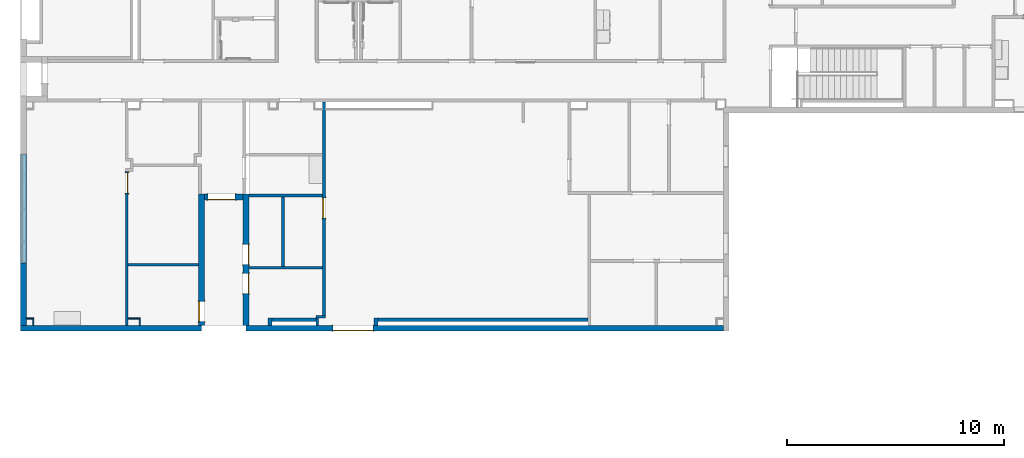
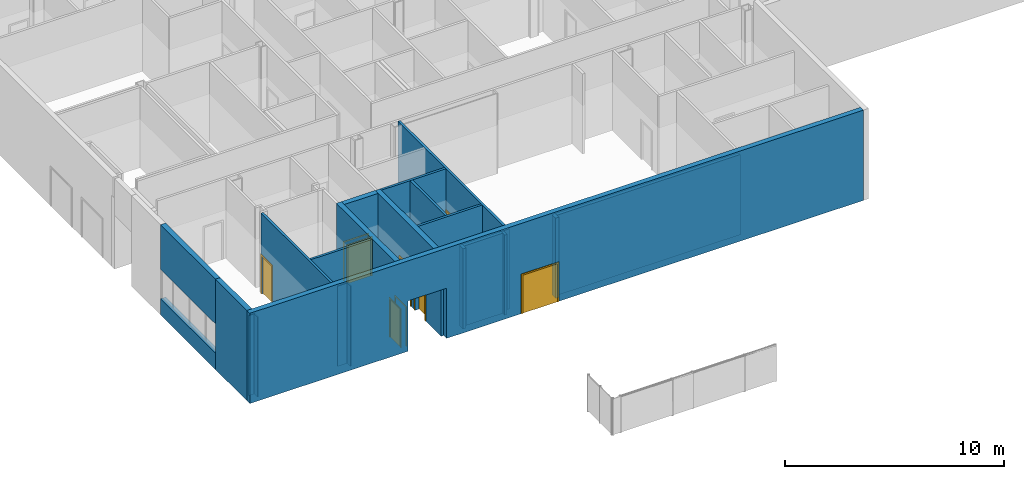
# One storey, part 18 of 82: 23 walls, 7 doors, 8 openings.
"""IFC2X3 building model written with IfcOpenShell, lengths in metres."""

from ifc_helpers import new_model, entity, si_unit, converted_unit, frame, frame_2d, origin, origin_2d_with_axis, place, context, project, spatial, polyline, rectangle, outline, extrude, source, transform, mapped, material, layer, layer_set, layer_usage, type_object, type_shapes, element, fill, save


model = new_model("IFC2X3")

# Units and contexts
model_context = context("Model", 3, precision=1e-09, world=origin())
plan_context = context("Plan", 3, precision=1e-09, world=origin())
ifc_project = project(units=[si_unit("LENGTHUNIT", "METRE"), si_unit("AREAUNIT", "SQUARE_METRE"), si_unit("VOLUMEUNIT", "CUBIC_METRE"), converted_unit("PLANEANGLEUNIT", "DEGREE", entity("IfcRatioMeasure", 0.01745329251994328), si_unit("PLANEANGLEUNIT", "RADIAN"), dimensions=[0, 0, 0, 0, 0, 0, 0]), si_unit("TIMEUNIT", "SECOND")], contexts=[model_context, plan_context])

# Site, building, storey
site_placement = place(None, origin())
site = spatial("IfcSite", under=ifc_project, at=site_placement, Name="Default", CompositionType="ELEMENT")
building_placement = place(site_placement, origin())
building = spatial("IfcBuilding", under=site, at=building_placement, CompositionType="ELEMENT")
storey_placement = place(building_placement, origin())
storey = spatial("IfcBuildingStorey", under=building, at=storey_placement, Name="First Floor", CompositionType="ELEMENT", Elevation=-3.531500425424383e-13)

# Wall, openings, door
ifc_material_1 = material(Name="Insulation - Insulated Panel")
ifc_layer_1 = layer(ifc_material_1, 0.042)
ifc_material_2 = material(Name="Metal - Firring")
ifc_layer_2 = layer(ifc_material_2, 0.038)
ifc_material_3 = material(Name="Wood - Sheathing - plywood")
ifc_layer_3 = layer(ifc_material_3, 0.019)
ifc_material_4 = material(Name="Metal - Stud Layer")
ifc_layer_4 = layer(ifc_material_4, 0.152)
ifc_material_5 = material(Name="Plasterboard")
ifc_layer_5 = layer(ifc_material_5, 0.016)
ifc_layer_set_1 = layer_set([ifc_layer_1, ifc_layer_2, ifc_layer_3, ifc_layer_4, ifc_layer_5], Name="Basic Wall:Exterior - Insul Panel on Mtl. Stud")
ifc_layer_usage_1 = layer_usage(ifc_layer_set_1, "AXIS2", "NEGATIVE", 0.1335)
wall_1_placement = place(storey_placement, frame((-19.9470000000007, -0.246500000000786, 0.0), z_axis=(0.0, 0.0, 1.0), x_axis=(-1.0, 0.0, 0.0)))
wall_1 = element("IfcWallStandardCase", 1, at=wall_1_placement, inside=storey, material=ifc_layer_usage_1, Name="Basic Wall:Exterior - Insul Panel on Mtl. Stud", ObjectType="Basic Wall:Exterior - Insul Panel on Mtl. Stud", context=model_context, shape_type="SweptSolid", body=[
    extrude(rectangle(XDim=32.333, YDim=0.267, at=frame_2d((16.1665, 0.0), x_axis=(-1.0, 0.0))), origin(), (0.0, 0.0, 1.0), 5.02700000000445),
])
opening_1_placement = place(wall_1_placement, frame((22.98149999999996, 0.1335, 1.400000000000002)))
element("IfcOpeningElement", 2, at=opening_1_placement, cuts=wall_1, Name="Basic Wall:Exterior - Insul Panel on Mtl. Stud:2", ObjectType="Opening", context=model_context, shape_type="SweptSolid", body=[
    extrude(rectangle(XDim=2.8, YDim=2.043999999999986, at=frame_2d((0.0, 0.0), x_axis=(0.0, 1.0))), frame((0.0, 0.0, 0.0), z_axis=(0.0, -1.0, 0.0), x_axis=(1.0, 0.0, 0.0)), (0.0, 0.0, 1.0), 0.267),
])
opening_2_placement = place(wall_1_placement, frame((16.12339999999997, -0.1335000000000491, 0.0)))
opening_2 = element("IfcOpeningElement", 3, at=opening_2_placement, cuts=wall_1, Name="M_Double-Flush:1830 x 2134mm Exterior:1830 x 2134mm Exterior:1", ObjectType="Opening", context=model_context, shape_type="SweptSolid", body=[
    extrude(rectangle(XDim=2.133999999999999, YDim=1.829999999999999, at=frame_2d((1.067, 0.9149999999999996), x_axis=(1.0, 0.0))), frame((0.0, 0.0, 0.0), z_axis=(0.0, 1.0, 0.0), x_axis=(0.0, 0.0, 1.0)), (0.0, 0.0, 1.0), 0.267),
])
door_style_1 = type_object("IfcDoorStyle", Name="1830 x 2134mm Exterior", ConstructionType="NOTDEFINED", OperationType="DOUBLE_DOOR_SINGLE_SWING", ParameterTakesPrecedence=False, Sizeable=False)
shared_shape_1 = source(origin(), model_context, "Body", "SweptSolid", [
    extrude(rectangle(XDim=0.051, YDim=0.9150000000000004, at=origin_2d_with_axis()), frame((1.3725, 0.2414999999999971, 0.0), z_axis=(0.0, 0.0, 1.0), x_axis=(0.0, -1.0, 0.0)), (0.0, 0.0, 1.0), 2.133999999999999),
    extrude(rectangle(XDim=0.05099999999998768, YDim=0.9149999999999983, at=origin_2d_with_axis()), frame((0.457500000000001, 0.2415000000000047, 0.0), z_axis=(0.0, 0.0, 1.0), x_axis=(0.0, -1.0, 0.0)), (0.0, 0.0, 1.0), 2.134),
    extrude(outline(polyline([(-1.048, 0.9149999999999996), (1.086, 0.9149999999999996), (1.086, 0.9909999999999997), (-1.124, 0.9909999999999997), (-1.124, -0.9909999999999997), (1.086, -0.9909999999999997), (1.086, -0.9149999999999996), (-1.048, -0.9149999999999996), (-1.048, 0.9149999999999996)])), frame((0.9149999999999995, -0.02499999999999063, 1.086), z_axis=(0.0, 1.0, 0.0), x_axis=(0.0, 0.0, -1.0)), (0.0, 0.0, 1.0), 0.02499999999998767),
    extrude(outline(polyline([(-1.048, 0.9149999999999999), (1.086, 0.9149999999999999), (1.086, 0.991), (-1.124, 0.991), (-1.124, -0.991), (1.086, -0.991), (1.086, -0.9149999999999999), (-1.048, -0.9149999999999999), (-1.048, 0.9149999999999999)])), frame((0.9150000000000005, 0.266999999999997, 1.086), z_axis=(0.0, 1.0, 0.0), x_axis=(0.0, 0.0, -1.0)), (0.0, 0.0, 1.0), 0.02500000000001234),
])
type_shapes(door_style_1, [shared_shape_1])
door_1_placement = place(opening_2_placement, origin())
door_1 = element("IfcDoor", 4, at=door_1_placement, inside=storey, type_object=door_style_1, Name="M_Double-Flush:1830 x 2134mm Exterior:1830 x 2134mm Exterior", ObjectType="1830 x 2134mm Exterior", OverallHeight=2.133999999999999, OverallWidth=1.83, context=model_context, shape_type="MappedRepresentation", body=[
    mapped(shared_shape_1, transform((0.0, 0.0, 0.0), scale=1.0)),
])
fill(opening_2, door_1)

# Wall, opening, door
ifc_layer_6 = layer(ifc_material_5, 0.016)
ifc_layer_7 = layer(ifc_material_4, 0.092)
ifc_layer_8 = layer(ifc_material_5, 0.016)
ifc_layer_set_2 = layer_set([ifc_layer_6, ifc_layer_7, ifc_layer_8], Name="Basic Wall:Interior - Partition (92mm Stud)")
ifc_layer_usage_2 = layer_usage(ifc_layer_set_2, "AXIS2", "NEGATIVE", 0.062)
wall_2_placement = place(storey_placement, frame((-38.3173992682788, 10.16299999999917, 0.0), z_axis=(0.0, 0.0, 1.0), x_axis=(0.0, -1.0, 0.0)))
wall_2 = element("IfcWallStandardCase", 5, at=wall_2_placement, inside=storey, material=ifc_layer_usage_2, Name="Basic Wall:Interior - Partition (92mm Stud)", ObjectType="Basic Wall:Interior - Partition (92mm Stud)", context=model_context, shape_type="SweptSolid", body=[
    extrude(rectangle(XDim=9.824271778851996, YDim=0.1239999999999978, at=frame_2d((4.912135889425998, 0.0), x_axis=(-1.0, 0.0))), origin(), (0.0, 0.0, 1.0), 4.468000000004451),
])
opening_3_placement = place(wall_2_placement, frame((5.34199999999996, 0.06199999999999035, 0.0)))
opening_3 = element("IfcOpeningElement", 6, at=opening_3_placement, cuts=wall_2, Name="M_Single-Flush:0915 x 2134mm:0915 x 2134mm:1", ObjectType="Opening", context=model_context, shape_type="SweptSolid", body=[
    extrude(rectangle(XDim=0.9149999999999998, YDim=2.134, at=frame_2d((1.067, 0.4575), x_axis=(0.0, 1.0))), frame((0.0, 0.0, 0.0), z_axis=(0.0, -1.0, 0.0), x_axis=(0.0, 0.0, 1.0)), (0.0, 0.0, 1.0), 0.124),
])
door_style_2 = type_object("IfcDoorStyle", Name="0915 x 2134mm", ConstructionType="NOTDEFINED", OperationType="SINGLE_SWING_RIGHT", ParameterTakesPrecedence=False, Sizeable=False)
shared_shape_2 = source(origin(), model_context, "Body", "SweptSolid", [
    extrude(outline(polyline([(-0.5335, -1.123999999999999), (0.5334999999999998, -1.123999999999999), (0.5334999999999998, 1.086), (0.4574999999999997, 1.086), (0.4574999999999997, -1.048000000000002), (-0.4574999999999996, -1.048000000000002), (-0.4574999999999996, 1.086), (-0.5335, 1.086), (-0.5335, -1.123999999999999)])), frame((0.4575000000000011, 0.1239999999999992, 1.086), z_axis=(0.0, 1.0, 0.0), x_axis=(1.0, 0.0, 0.0)), (0.0, 0.0, 1.0), 0.02499999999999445),
    extrude(outline(polyline([(-1.123999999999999, -0.5334999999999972), (1.085999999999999, -0.5334999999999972), (1.085999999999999, -0.4575000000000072), (-1.048, -0.4575000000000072), (-1.048, 0.4575000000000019), (1.085999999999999, 0.4575000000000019), (1.085999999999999, 0.5335000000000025), (-1.123999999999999, 0.5335000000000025), (-1.123999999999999, -0.5334999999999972)])), frame((0.4575000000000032, -0.02500000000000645, 1.085999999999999), z_axis=(0.0, 1.0, 0.0), x_axis=(0.0, 0.0, -1.0)), (0.0, 0.0, 1.0), 0.02500000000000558),
    extrude(rectangle(XDim=0.051, YDim=0.9149999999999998, at=origin_2d_with_axis()), frame((0.4575000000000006, 0.09849999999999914, 0.0), z_axis=(0.0, 0.0, 1.0), x_axis=(0.0, 1.0, 0.0)), (0.0, 0.0, 1.0), 2.133999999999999),
])
type_shapes(door_style_2, [shared_shape_2])
door_2_placement = place(opening_3_placement, frame((0.0, 0.0, 0.0), z_axis=(0.0, 0.0, 1.0), x_axis=(-1.0, 0.0, 0.0)))
door_2 = element("IfcDoor", 7, at=door_2_placement, inside=storey, type_object=door_style_2, Name="M_Single-Flush:0915 x 2134mm:0915 x 2134mm", ObjectType="0915 x 2134mm", OverallHeight=2.134, OverallWidth=0.9149999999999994, context=model_context, shape_type="MappedRepresentation", body=[
    mapped(shared_shape_2, transform((0.0, 0.0, 0.0), scale=1.0)),
])
fill(opening_3, door_2)

# Wall
wall_3_placement = place(storey_placement, frame((-41.77300000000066, 5.857999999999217, 0.0)))
element("IfcWallStandardCase", 8, at=wall_3_placement, inside=storey, material=ifc_layer_usage_2, Name="Basic Wall:Interior - Partition (92mm Stud)", ObjectType="Basic Wall:Interior - Partition (92mm Stud)", context=model_context, shape_type="SweptSolid", body=[
    extrude(rectangle(XDim=3.39360073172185, YDim=0.124, at=frame_2d((1.696800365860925, 0.0), x_axis=(-1.0, 0.0))), origin(), (0.0, 0.0, 1.0), 4.468000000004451),
])

# Wall, opening, door
wall_4_placement = place(storey_placement, frame((-47.38800000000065, -0.1130000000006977, 0.0), z_axis=(0.0, 0.0, 1.0), x_axis=(0.0, 1.0, 0.0)))
wall_4 = element("IfcWallStandardCase", 9, at=wall_4_placement, inside=storey, material=ifc_layer_usage_2, Name="Basic Wall:Interior - Partition (92mm Stud)", ObjectType="Basic Wall:Interior - Partition (92mm Stud)", context=model_context, shape_type="SweptSolid", body=[
    extrude(rectangle(XDim=7.078999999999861, YDim=0.1240000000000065, at=frame_2d((3.539499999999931, 0.0), x_axis=(-1.0, 0.0))), origin(), (0.0, 0.0, 1.0), 4.46800000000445),
])
opening_4_placement = place(wall_4_placement, frame((6.998999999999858, 0.06200000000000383, 0.0)))
opening_4 = element("IfcOpeningElement", 10, at=opening_4_placement, cuts=wall_4, Name="M_Single-Flush:0915 x 2134mm:0915 x 2134mm:1", ObjectType="Opening", context=model_context, shape_type="SweptSolid", body=[
    extrude(rectangle(XDim=0.9149999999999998, YDim=2.134, at=frame_2d((1.067, 0.4574999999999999), x_axis=(0.0, -1.0))), frame((0.0, 0.0, 0.0), z_axis=(0.0, -1.0, 0.0), x_axis=(0.0, 0.0, 1.0)), (0.0, 0.0, 1.0), 0.124),
])
door_style_3 = type_object("IfcDoorStyle", Name="0915 x 2134mm", ConstructionType="NOTDEFINED", OperationType="SINGLE_SWING_LEFT", ParameterTakesPrecedence=False, Sizeable=False)
shared_shape_3 = source(origin(), model_context, "Body", "SweptSolid", [
    extrude(outline(polyline([(-0.5335, -1.123999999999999), (0.5334999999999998, -1.123999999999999), (0.5334999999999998, 1.086), (0.4574999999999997, 1.086), (0.4574999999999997, -1.048000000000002), (-0.4574999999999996, -1.048000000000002), (-0.4574999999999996, 1.086), (-0.5335, 1.086), (-0.5335, -1.123999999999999)])), frame((0.4575000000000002, 0.1489999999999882, 1.086), z_axis=(0.0, -1.0, 0.0), x_axis=(-1.0, 0.0, 0.0)), (0.0, 0.0, 1.0), 0.02499999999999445),
    extrude(outline(polyline([(-1.123999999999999, -0.5334999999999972), (1.085999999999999, -0.5334999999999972), (1.085999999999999, -0.4575000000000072), (-1.048, -0.4575000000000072), (-1.048, 0.4575000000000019), (1.085999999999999, 0.4575000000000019), (1.085999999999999, 0.5335000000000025), (-1.123999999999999, 0.5335000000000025), (-1.123999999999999, -0.5334999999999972)])), frame((0.4574999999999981, 0.0, 1.085999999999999), z_axis=(0.0, -1.0, 0.0), x_axis=(0.0, 0.0, -1.0)), (0.0, 0.0, 1.0), 0.02500000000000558),
    extrude(rectangle(XDim=0.9149999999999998, YDim=0.051, at=origin_2d_with_axis()), frame((0.4575000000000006, 0.09849999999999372, 0.0)), (0.0, 0.0, 1.0), 2.133999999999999),
])
type_shapes(door_style_3, [shared_shape_3])
door_3_placement = place(opening_4_placement, frame((0.0, 0.0, 0.0), z_axis=(0.0, 0.0, 1.0), x_axis=(-1.0, 0.0, 0.0)))
door_3 = element("IfcDoor", 11, at=door_3_placement, inside=storey, type_object=door_style_3, Name="M_Single-Flush:0915 x 2134mm:0915 x 2134mm", ObjectType="0915 x 2134mm", OverallHeight=2.134, OverallWidth=0.9149999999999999, context=model_context, shape_type="MappedRepresentation", body=[
    mapped(shared_shape_3, transform((0.0, 0.0, 0.0), scale=1.0)),
])
fill(opening_4, door_3)

# Wall, openings, doors
wall_5_placement = place(storey_placement, frame((-41.90650000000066, -0.113000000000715, 0.0), z_axis=(0.0, 0.0, 1.0), x_axis=(0.0, 1.0, 0.0)))
wall_5 = element("IfcWallStandardCase", 12, at=wall_5_placement, inside=storey, material=ifc_layer_usage_1, Name="Basic Wall:Exterior - Insul Panel on Mtl. Stud", ObjectType="Basic Wall:Exterior - Insul Panel on Mtl. Stud", context=model_context, shape_type="SweptSolid", body=[
    extrude(rectangle(XDim=6.032999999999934, YDim=0.2670000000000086, at=frame_2d((3.016499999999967, 0.0), x_axis=(-1.0, 0.0))), origin(), (0.0, 0.0, 1.0), 4.46800000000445),
])
opening_5_placement = place(wall_5_placement, frame((2.382999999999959, 0.1335000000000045, 0.0)))
opening_5 = element("IfcOpeningElement", 13, at=opening_5_placement, cuts=wall_5, Name="M_Single-Flush:0915 x 2134mm Exterior:0915 x 2134mm Exterior:1", ObjectType="Opening", context=model_context, shape_type="SweptSolid", body=[
    extrude(rectangle(XDim=0.915, YDim=2.134, at=frame_2d((1.067, 0.4575000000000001), x_axis=(0.0, -1.0))), frame((0.0, 0.0, 0.0), z_axis=(0.0, -1.0, 0.0), x_axis=(0.0, 0.0, 1.0)), (0.0, 0.0, 1.0), 0.267),
])
opening_6_placement = place(wall_5_placement, frame((3.721999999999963, 0.1335000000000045, 0.0)))
opening_6 = element("IfcOpeningElement", 14, at=opening_6_placement, cuts=wall_5, Name="M_Single-Flush:0915 x 2134mm Exterior:0915 x 2134mm Exterior:1", ObjectType="Opening", context=model_context, shape_type="SweptSolid", body=[
    extrude(rectangle(XDim=0.9149999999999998, YDim=2.134, at=frame_2d((1.067, 0.4575), x_axis=(0.0, 1.0))), frame((0.0, 0.0, 0.0), z_axis=(0.0, -1.0, 0.0), x_axis=(0.0, 0.0, 1.0)), (0.0, 0.0, 1.0), 0.267),
])
door_style_4 = type_object("IfcDoorStyle", Name="0915 x 2134mm Exterior", ConstructionType="NOTDEFINED", OperationType="SINGLE_SWING_RIGHT", ParameterTakesPrecedence=False, Sizeable=False)
shared_shape_4 = source(origin(), model_context, "Body", "SweptSolid", [
    extrude(outline(polyline([(-0.5335, -1.123999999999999), (0.5334999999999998, -1.123999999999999), (0.5334999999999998, 1.086), (0.4574999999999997, 1.086), (0.4574999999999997, -1.048000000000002), (-0.4574999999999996, -1.048000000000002), (-0.4574999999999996, 1.086), (-0.5335, 1.086), (-0.5335, -1.123999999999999)])), frame((0.4575000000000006, 0.2669999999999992, 1.086), z_axis=(0.0, 1.0, 0.0), x_axis=(1.0, 0.0, 0.0)), (0.0, 0.0, 1.0), 0.02499999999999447),
    extrude(outline(polyline([(-1.123999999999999, -0.5334999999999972), (1.085999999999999, -0.5334999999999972), (1.085999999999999, -0.4575000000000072), (-1.048, -0.4575000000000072), (-1.048, 0.4575000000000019), (1.085999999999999, 0.4575000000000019), (1.085999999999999, 0.5335000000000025), (-1.123999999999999, 0.5335000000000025), (-1.123999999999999, -0.5334999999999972)])), frame((0.4575000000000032, -0.02500000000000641, 1.085999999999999), z_axis=(0.0, 1.0, 0.0), x_axis=(0.0, 0.0, -1.0)), (0.0, 0.0, 1.0), 0.0250000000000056),
    extrude(rectangle(XDim=0.051, YDim=0.9149999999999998, at=origin_2d_with_axis()), frame((0.4575000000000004, 0.2414999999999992, 0.0), z_axis=(0.0, 0.0, 1.0), x_axis=(0.0, 1.0, 0.0)), (0.0, 0.0, 1.0), 2.133999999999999),
])
type_shapes(door_style_4, [shared_shape_4])
door_4_placement = place(opening_6_placement, frame((0.0, 0.0, 0.0), z_axis=(0.0, 0.0, 1.0), x_axis=(-1.0, 0.0, 0.0)))
door_4 = element("IfcDoor", 15, at=door_4_placement, inside=storey, type_object=door_style_4, Name="M_Single-Flush:0915 x 2134mm Exterior:0915 x 2134mm Exterior", ObjectType="0915 x 2134mm Exterior", OverallHeight=2.134, OverallWidth=0.9149999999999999, context=model_context, shape_type="MappedRepresentation", body=[
    mapped(shared_shape_4, transform((0.0, 0.0, 0.0), scale=1.0)),
])
fill(opening_6, door_4)
door_style_5 = type_object("IfcDoorStyle", Name="0915 x 2134mm Exterior", ConstructionType="NOTDEFINED", OperationType="SINGLE_SWING_LEFT", ParameterTakesPrecedence=False, Sizeable=False)
shared_shape_5 = source(origin(), model_context, "Body", "SweptSolid", [
    extrude(outline(polyline([(-0.5335, -1.123999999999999), (0.5334999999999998, -1.123999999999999), (0.5334999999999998, 1.086), (0.4574999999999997, 1.086), (0.4574999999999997, -1.048000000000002), (-0.4574999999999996, -1.048000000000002), (-0.4574999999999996, 1.086), (-0.5335, 1.086), (-0.5335, -1.123999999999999)])), frame((0.4575000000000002, 0.2919999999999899, 1.086), z_axis=(0.0, -1.0, 0.0), x_axis=(-1.0, 0.0, 0.0)), (0.0, 0.0, 1.0), 0.02499999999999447),
    extrude(outline(polyline([(-1.123999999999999, -0.5334999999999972), (1.085999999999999, -0.5334999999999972), (1.085999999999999, -0.4575000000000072), (-1.048, -0.4575000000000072), (-1.048, 0.4575000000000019), (1.085999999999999, 0.4575000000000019), (1.085999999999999, 0.5335000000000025), (-1.123999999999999, 0.5335000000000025), (-1.123999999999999, -0.5334999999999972)])), frame((0.4574999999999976, 0.0, 1.085999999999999), z_axis=(0.0, -1.0, 0.0), x_axis=(0.0, 0.0, -1.0)), (0.0, 0.0, 1.0), 0.0250000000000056),
    extrude(rectangle(XDim=0.9149999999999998, YDim=0.051, at=origin_2d_with_axis()), frame((0.4575000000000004, 0.2414999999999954, 0.0)), (0.0, 0.0, 1.0), 2.133999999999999),
])
type_shapes(door_style_5, [shared_shape_5])
door_5_placement = place(opening_5_placement, frame((0.0, 0.0, 0.0), z_axis=(0.0, 0.0, 1.0), x_axis=(-1.0, 0.0, 0.0)))
door_5 = element("IfcDoor", 16, at=door_5_placement, inside=storey, type_object=door_style_5, Name="M_Single-Flush:0915 x 2134mm Exterior:0915 x 2134mm Exterior", ObjectType="0915 x 2134mm Exterior", OverallHeight=2.134, OverallWidth=0.9150000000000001, context=model_context, shape_type="MappedRepresentation", body=[
    mapped(shared_shape_5, transform((0.0, 0.0, 0.0), scale=1.0)),
])
fill(opening_5, door_5)

# Walls
wall_6_placement = place(storey_placement, frame((-52.14650000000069, 2.759486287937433, 0.0), z_axis=(0.0, 0.0, 1.0), x_axis=(0.0, 1.0, 0.0)))
element("IfcWallStandardCase", 17, at=wall_6_placement, inside=storey, material=ifc_layer_usage_1, Name="Basic Wall:Exterior - Insul Panel on Mtl. Stud", ObjectType="Basic Wall:Exterior - Insul Panel on Mtl. Stud", context=model_context, shape_type="SweptSolid", body=[
    extrude(rectangle(XDim=5.000513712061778, YDim=0.2670000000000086, at=frame_2d((2.500256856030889, 0.0), x_axis=(-1.0, 0.0))), origin(), (0.0, 0.0, 1.0), 0.905),
])
wall_7_placement = place(storey_placement, frame((-52.1465000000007, -0.1130000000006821, 0.0), z_axis=(0.0, 0.0, 1.0), x_axis=(0.0, 1.0, 0.0)))
element("IfcWallStandardCase", 18, at=wall_7_placement, inside=storey, material=ifc_layer_usage_1, Name="Basic Wall:Exterior - Insul Panel on Mtl. Stud", ObjectType="Basic Wall:Exterior - Insul Panel on Mtl. Stud", context=model_context, shape_type="SweptSolid", body=[
    extrude(rectangle(XDim=2.872486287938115, YDim=0.2670000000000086, at=frame_2d((1.436243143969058, 0.0), x_axis=(-1.0, 0.0))), origin(), (0.0, 0.0, 1.0), 5.02700000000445),
])
wall_8_placement = place(storey_placement, frame((-52.14650000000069, 2.759486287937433, 2.54), z_axis=(0.0, 0.0, 1.0), x_axis=(0.0, 1.0, 0.0)))
element("IfcWallStandardCase", 19, at=wall_8_placement, inside=storey, material=ifc_layer_usage_1, Name="Basic Wall:Exterior - Insul Panel on Mtl. Stud", ObjectType="Basic Wall:Exterior - Insul Panel on Mtl. Stud", context=model_context, shape_type="SweptSolid", body=[
    extrude(rectangle(XDim=5.000513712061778, YDim=0.2670000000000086, at=frame_2d((2.500256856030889, 0.0), x_axis=(-1.0, 0.0))), origin(), (0.0, 0.0, 1.0), 2.48700000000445),
])

# Wall, opening, door
wall_9_placement = place(storey_placement, frame((-43.95050000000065, 5.919999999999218, 0.0), z_axis=(0.0, 0.0, 1.0), x_axis=(0.0, -1.0, 0.0)))
wall_9 = element("IfcWallStandardCase", 20, at=wall_9_placement, inside=storey, material=ifc_layer_usage_1, Name="Basic Wall:Exterior - Insul Panel on Mtl. Stud", ObjectType="Basic Wall:Exterior - Insul Panel on Mtl. Stud", context=model_context, shape_type="SweptSolid", body=[
    extrude(rectangle(XDim=6.032999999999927, YDim=0.2670000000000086, at=frame_2d((3.016499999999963, 0.0), x_axis=(-1.0, 0.0))), origin(), (0.0, 0.0, 1.0), 4.46800000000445),
])
opening_7_placement = place(wall_9_placement, frame((5.85299999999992, 0.1334999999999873, 0.0)))
opening_7 = element("IfcOpeningElement", 21, at=opening_7_placement, cuts=wall_9, Name="M_Single-Flush:0915 x 2134mm Exterior:0915 x 2134mm Exterior:1", ObjectType="Opening", context=model_context, shape_type="SweptSolid", body=[
    extrude(rectangle(XDim=0.9149999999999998, YDim=2.134, at=frame_2d((1.067, 0.4574999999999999), x_axis=(0.0, -1.0))), frame((0.0, 0.0, 0.0), z_axis=(0.0, -1.0, 0.0), x_axis=(0.0, 0.0, 1.0)), (0.0, 0.0, 1.0), 0.267),
])
door_6_placement = place(opening_7_placement, frame((0.0, 0.0, 0.0), z_axis=(0.0, 0.0, 1.0), x_axis=(-1.0, 0.0, 0.0)))
door_6 = element("IfcDoor", 22, at=door_6_placement, inside=storey, type_object=door_style_5, Name="M_Single-Flush:0915 x 2134mm Exterior:0915 x 2134mm Exterior", ObjectType="0915 x 2134mm Exterior", OverallHeight=2.134, OverallWidth=0.9150000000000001, context=model_context, shape_type="MappedRepresentation", body=[
    mapped(shared_shape_5, transform((0.0, 0.0, 0.0), scale=1.0)),
])
fill(opening_7, door_6)

wall_10_placement = place(storey_placement, frame((-42.04000000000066, 5.786499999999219, 0.0), z_axis=(0.0, 0.0, 1.0), x_axis=(-1.0, 0.0, 0.0)))
wall_10 = element("IfcWallStandardCase", 23, at=wall_10_placement, inside=storey, material=ifc_layer_usage_1, Name="Basic Wall:Exterior - Insul Panel on Mtl. Stud", ObjectType="Basic Wall:Exterior - Insul Panel on Mtl. Stud", context=model_context, shape_type="SweptSolid", body=[
    extrude(rectangle(XDim=1.776999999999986, YDim=0.267, at=frame_2d((0.888499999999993, 0.0), x_axis=(-1.0, 0.0))), origin(), (0.0, 0.0, 1.0), 4.46800000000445),
])
opening_8_placement = place(wall_10_placement, frame((0.3853784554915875, -0.1335000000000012, 0.0)))
opening_8 = element("IfcOpeningElement", 24, at=opening_8_placement, cuts=wall_10, Name="M_Single-Flush:1.220 x 2134mm Exterior:1.220 x 2134mm Exterior:1", ObjectType="Opening", context=model_context, shape_type="SweptSolid", body=[
    extrude(rectangle(XDim=1.22, YDim=2.134, at=frame_2d((1.067, 0.6100000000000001), x_axis=(0.0, 1.0))), frame((0.0, 0.0, 0.0), z_axis=(0.0, 1.0, 0.0), x_axis=(0.0, 0.0, 1.0)), (0.0, 0.0, 1.0), 0.267),
])
door_style_6 = type_object("IfcDoorStyle", Name="1.220 x 2134mm Exterior", ConstructionType="NOTDEFINED", OperationType="SINGLE_SWING_RIGHT", ParameterTakesPrecedence=False, Sizeable=False)
shared_shape_6 = source(origin(), model_context, "Body", "SweptSolid", [
    extrude(outline(polyline([(-0.6859999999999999, -1.123999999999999), (0.6859999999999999, -1.123999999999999), (0.6859999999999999, 1.086), (0.61, 1.086), (0.61, -1.048000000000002), (-0.6099999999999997, -1.048000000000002), (-0.6099999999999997, 1.086), (-0.6859999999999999, 1.086), (-0.6859999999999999, -1.123999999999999)])), frame((0.6100000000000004, 0.2669999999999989, 1.086), z_axis=(0.0, 1.0, 0.0), x_axis=(1.0, 0.0, 0.0)), (0.0, 0.0, 1.0), 0.02499999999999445),
    extrude(outline(polyline([(-1.124, -0.6859999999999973), (1.086, -0.6859999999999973), (1.086, -0.6100000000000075), (-1.048, -0.6100000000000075), (-1.048, 0.6100000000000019), (1.086, 0.6100000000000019), (1.086, 0.6860000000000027), (-1.124, 0.6860000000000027), (-1.124, -0.6859999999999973)])), frame((0.6100000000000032, -0.0250000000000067, 1.086), z_axis=(0.0, 1.0, 0.0), x_axis=(0.0, 0.0, -1.0)), (0.0, 0.0, 1.0), 0.02500000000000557),
    extrude(rectangle(XDim=0.051, YDim=1.22, at=origin_2d_with_axis()), frame((0.6100000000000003, 0.2414999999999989, 0.0), z_axis=(0.0, 0.0, 1.0), x_axis=(0.0, 1.0, 0.0)), (0.0, 0.0, 1.0), 2.133999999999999),
])
type_shapes(door_style_6, [shared_shape_6])
door_7_placement = place(opening_8_placement, origin())
door_7 = element("IfcDoor", 25, at=door_7_placement, inside=storey, type_object=door_style_6, Name="M_Single-Flush:1.220 x 2134mm Exterior:1.220 x 2134mm Exterior", ObjectType="1.220 x 2134mm Exterior", OverallHeight=2.134, OverallWidth=1.22, context=model_context, shape_type="MappedRepresentation", body=[
    mapped(shared_shape_6, transform((0.0, 0.0, 0.0), scale=1.0)),
])
fill(opening_8, door_7)

# Walls
wall_11_placement = place(storey_placement, frame((-38.37939926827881, 2.531999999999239, 0.0), z_axis=(0.0, 0.0, 1.0), x_axis=(-1.0, 0.0, 0.0)))
element("IfcWallStandardCase", 26, at=wall_11_placement, inside=storey, material=ifc_layer_usage_2, Name="Basic Wall:Interior - Partition (92mm Stud)", ObjectType="Basic Wall:Interior - Partition (92mm Stud)", context=model_context, shape_type="SweptSolid", body=[
    extrude(rectangle(XDim=3.393600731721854, YDim=0.124, at=frame_2d((1.696800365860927, 0.0), x_axis=(-1.0, 0.0))), origin(), (0.0, 0.0, 1.0), 4.46800000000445),
])
wall_12_placement = place(storey_placement, frame((-38.63240000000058, 0.2147282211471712, 0.0), z_axis=(0.0, 0.0, 1.0), x_axis=(0.0, -1.0, 0.0)))
element("IfcWallStandardCase", 27, at=wall_12_placement, inside=storey, material=ifc_layer_usage_2, Name="Basic Wall:Interior - Partition (92mm Stud)", ObjectType="Basic Wall:Interior - Partition (92mm Stud)", context=model_context, shape_type="SweptSolid", body=[
    extrude(rectangle(XDim=0.327728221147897, YDim=0.1239999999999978, at=frame_2d((0.1638641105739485, 0.0), x_axis=(-1.0, 0.0))), origin(), (0.0, 0.0, 1.0), 4.46800000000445),
])
wall_13_placement = place(storey_placement, frame((-38.25539926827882, 0.2767282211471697, 0.0), z_axis=(0.0, 0.0, 1.0), x_axis=(-1.0, 0.0, 0.0)))
element("IfcWallStandardCase", 28, at=wall_13_placement, inside=storey, material=ifc_layer_usage_2, Name="Basic Wall:Interior - Partition (92mm Stud)", ObjectType="Basic Wall:Interior - Partition (92mm Stud)", context=model_context, shape_type="SweptSolid", body=[
    extrude(rectangle(XDim=0.4390007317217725, YDim=0.124, at=frame_2d((0.2195003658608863, 0.0), x_axis=(-1.0, 0.0))), origin(), (0.0, 0.0, 1.0), 4.46800000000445),
])
wall_14_placement = place(storey_placement, frame((-40.20340000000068, 2.593999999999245, 0.0), z_axis=(0.0, 0.0, 1.0), x_axis=(0.0, 1.0, 0.0)))
element("IfcWallStandardCase", 29, at=wall_14_placement, inside=storey, material=ifc_layer_usage_2, Name="Basic Wall:Interior - Partition (92mm Stud)", ObjectType="Basic Wall:Interior - Partition (92mm Stud)", context=model_context, shape_type="SweptSolid", body=[
    extrude(rectangle(XDim=3.201999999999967, YDim=0.1240000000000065, at=frame_2d((1.600999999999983, 0.0), x_axis=(-1.0, 0.0))), origin(), (0.0, 0.0, 1.0), 4.46800000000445),
])
ifc_layer_9 = layer(ifc_material_4, 0.152)
ifc_layer_10 = layer(ifc_material_5, 0.016)
ifc_layer_set_3 = layer_set([ifc_layer_9, ifc_layer_10], Name="Basic Wall:Interior - Furring (152 mm Stud)")
ifc_layer_usage_3 = layer_usage(ifc_layer_set_3, "AXIS2", "POSITIVE", -0.08399999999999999)
wall_15_placement = place(storey_placement, frame((-40.72200000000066, 0.1459999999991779, 0.0)))
element("IfcWallStandardCase", 30, at=wall_15_placement, inside=storey, material=ifc_layer_usage_3, Name="Basic Wall:Interior - Furring (152 mm Stud)", ObjectType="Basic Wall:Interior - Furring (152 mm Stud)", context=model_context, shape_type="SweptSolid", body=[
    extrude(rectangle(XDim=2.027600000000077, YDim=0.168, at=frame_2d((1.013800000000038, 0.0), x_axis=(-1.0, 0.0))), origin(), (0.0, 0.0, 1.0), 4.46800000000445),
])
wall_16_placement = place(storey_placement, frame((-47.32600000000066, 2.677999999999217, 0.0)))
element("IfcWallStandardCase", 31, at=wall_16_placement, inside=storey, material=ifc_layer_usage_2, Name="Basic Wall:Interior - Partition (92mm Stud)", ObjectType="Basic Wall:Interior - Partition (92mm Stud)", context=model_context, shape_type="SweptSolid", body=[
    extrude(rectangle(XDim=3.242000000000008, YDim=0.124, at=frame_2d((1.621000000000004, 0.0), x_axis=(-1.0, 0.0))), origin(), (0.0, 0.0, 1.0), 4.46800000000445),
])
wall_17_placement = place(storey_placement, frame((-35.92640000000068, -0.1130000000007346, 0.0), z_axis=(0.0, 0.0, 1.0), x_axis=(0.0, 1.0, 0.0)))
element("IfcWallStandardCase", 32, at=wall_17_placement, inside=storey, material=ifc_layer_usage_3, Name="Basic Wall:Interior - Furring (152 mm Stud)", ObjectType="Basic Wall:Interior - Furring (152 mm Stud)", context=model_context, shape_type="SweptSolid", body=[
    extrude(rectangle(XDim=0.342999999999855, YDim=0.1679999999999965, at=frame_2d((0.1714999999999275, 0.0), x_axis=(-1.0, 0.0))), origin(), (0.0, 0.0, 1.0), 4.46800000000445),
])
wall_18_placement = place(storey_placement, frame((-40.80600000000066, -0.1130000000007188, 0.0), z_axis=(0.0, 0.0, 1.0), x_axis=(0.0, 1.0, 0.0)))
element("IfcWallStandardCase", 33, at=wall_18_placement, inside=storey, material=ifc_layer_usage_3, Name="Basic Wall:Interior - Furring (152 mm Stud)", ObjectType="Basic Wall:Interior - Furring (152 mm Stud)", context=model_context, shape_type="SweptSolid", body=[
    extrude(rectangle(XDim=0.3429999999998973, YDim=0.1679999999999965, at=frame_2d((0.1714999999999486, 0.0), x_axis=(-1.0, 0.0))), origin(), (0.0, 0.0, 1.0), 4.46800000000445),
])
wall_19_placement = place(storey_placement, frame((-35.84240000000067, 0.1459999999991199, 0.0)))
element("IfcWallStandardCase", 34, at=wall_19_placement, inside=storey, material=ifc_layer_usage_3, Name="Basic Wall:Interior - Furring (152 mm Stud)", ObjectType="Basic Wall:Interior - Furring (152 mm Stud)", context=model_context, shape_type="SweptSolid", body=[
    extrude(rectangle(XDim=9.668400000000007, YDim=0.168, at=frame_2d((4.834200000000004, 0.0), x_axis=(-1.0, 0.0))), origin(), (0.0, 0.0, 1.0), 4.46800000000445),
])
ifc_layer_11 = layer(ifc_material_4, 0.038)
ifc_layer_12 = layer(ifc_material_5, 0.016)
ifc_layer_set_4 = layer_set([ifc_layer_11, ifc_layer_12], Name="Basic Wall:Interior - Furring (38 mm Stud)")
ifc_layer_usage_4 = layer_usage(ifc_layer_set_4, "AXIS2", "POSITIVE", -0.027)
wall_20_placement = place(storey_placement, frame((-51.69660000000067, 0.1759999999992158, 0.0), z_axis=(0.0, 0.0, 1.0), x_axis=(0.0, -1.0, 0.0)))
element("IfcWallStandardCase", 35, at=wall_20_placement, inside=storey, material=ifc_layer_usage_4, Name="Basic Wall:Interior - Furring (38 mm Stud)", ObjectType="Basic Wall:Interior - Furring (38 mm Stud)", context=model_context, shape_type="SweptSolid", body=[
    extrude(rectangle(XDim=0.2889999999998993, YDim=0.05400000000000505, at=frame_2d((0.1444999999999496, 0.0), x_axis=(-1.0, 0.0))), origin(), (0.0, 0.0, 1.0), 4.46800000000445),
])
wall_21_placement = place(storey_placement, frame((-46.79660000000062, 0.1759999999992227, 0.0), z_axis=(0.0, 0.0, 1.0), x_axis=(0.0, -1.0, 0.0)))
element("IfcWallStandardCase", 36, at=wall_21_placement, inside=storey, material=ifc_layer_usage_4, Name="Basic Wall:Interior - Furring (38 mm Stud)", ObjectType="Basic Wall:Interior - Furring (38 mm Stud)", context=model_context, shape_type="SweptSolid", body=[
    extrude(rectangle(XDim=0.288999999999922, YDim=0.05400000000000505, at=frame_2d((0.144499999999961, 0.0), x_axis=(-1.0, 0.0))), origin(), (0.0, 0.0, 1.0), 4.46800000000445),
])
wall_22_placement = place(storey_placement, frame((-47.32600000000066, 0.2029999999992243, 0.0)))
element("IfcWallStandardCase", 37, at=wall_22_placement, inside=storey, material=ifc_layer_usage_4, Name="Basic Wall:Interior - Furring (38 mm Stud)", ObjectType="Basic Wall:Interior - Furring (38 mm Stud)", context=model_context, shape_type="SweptSolid", body=[
    extrude(rectangle(XDim=0.5564000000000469, YDim=0.05400000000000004, at=frame_2d((0.2782000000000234, 0.0), x_axis=(-1.0, 0.0))), origin(), (0.0, 0.0, 1.0), 4.46800000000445),
])
wall_23_placement = place(storey_placement, frame((-52.0130000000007, 0.2029999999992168, 0.0)))
element("IfcWallStandardCase", 38, at=wall_23_placement, inside=storey, material=ifc_layer_usage_4, Name="Basic Wall:Interior - Furring (38 mm Stud)", ObjectType="Basic Wall:Interior - Furring (38 mm Stud)", context=model_context, shape_type="SweptSolid", body=[
    extrude(rectangle(XDim=0.3434000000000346, YDim=0.05400000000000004, at=frame_2d((0.1717000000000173, 0.0), x_axis=(-1.0, 0.0))), origin(), (0.0, 0.0, 1.0), 4.46800000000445),
])

save(model, "model.ifc")
